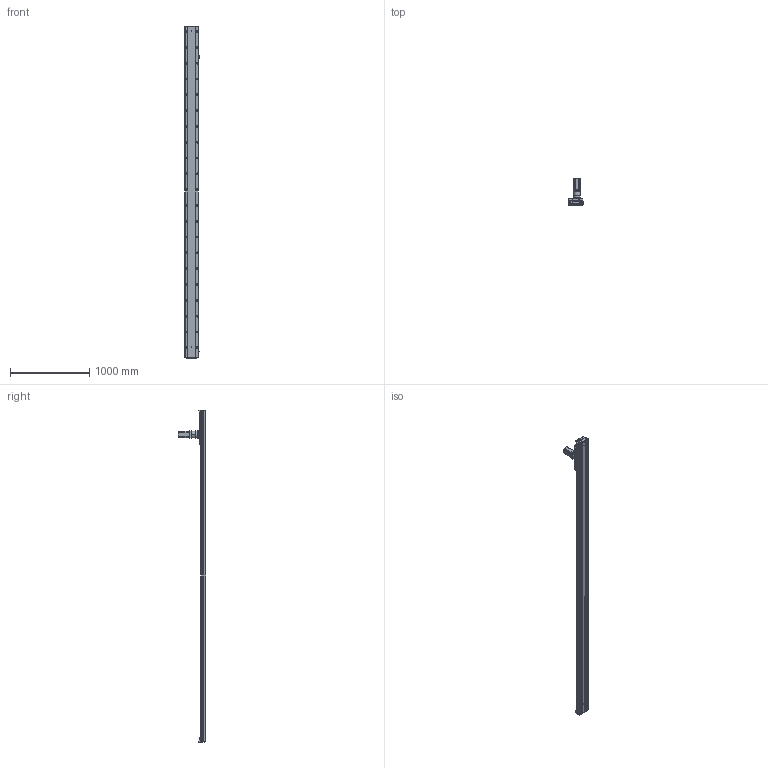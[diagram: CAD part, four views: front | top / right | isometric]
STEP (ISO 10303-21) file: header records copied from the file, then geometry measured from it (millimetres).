
FILE_DESCRIPTION (( 'STEP AP203' ), '1' );
FILE_NAME ('RY170-C-1000-UK.SLDASM_3700.step', '2021-03-03T00:49:17', ( '盈信电脑' ), ( '东莞市道滘镇水果街19号' ), 'SwSTEP 2.0', 'SolidWorks 2012', '' );
FILE_SCHEMA (( 'CONFIG_CONTROL_DESIGN' ));
Length unit declared in the file: millimetre
Products named in the file (13): RY170-C-1000-UK.SLDASM_3700; RY170-喘沭賑輸; RY170-喘沭滅袉蝶輸; 左旋斜齿齿轮_M2_22齿_内孔20; TF080等撰; RY170-喘謫萇儂覃誹啣; 覜茼ん672; 怢湛750W萇儂ㄗ80遺ㄘ; RY170外置感应片(200共用）; 絳寢賑輸EGH20CA; RY170-1000-喘沭耀郪絳寢EGH20CA_3700; RY170綴裔啣ㄗ蜊秶ㄘ; RY170-1000齿条模组型材底座_3700
Assembly tree (22 placements, depth 2):
  RY170-C-1000-UK.SLDASM_3700
    RY170-1000齿条模组型材底座_3700
    絳寢賑輸EGH20CA  x6
    RY170-1000-喘沭耀郪絳寢EGH20CA_3700  x2
    RY170綴裔啣ㄗ蜊秶ㄘ  x2
    覜茼ん672  x3
    RY170外置感应片(200共用）
    RY170-喘謫萇儂覃誹啣
    怢湛750W萇儂ㄗ80遺ㄘ
    RY170-喘沭滅袉蝶輸  x2
    TF080等撰
    左旋斜齿齿轮_M2_22齿_内孔20
    RY170-喘沭賑輸
Bounding box: 188.7 x 343.5 x 4200 mm (x, y, z)
Volume: 20302269.5 mm3; surface area: 5316129.4 mm2
Topology: 24 solids, 24 shells, 5257 faces, 15044 edges, 9558 vertices
Faces by surface type: plane 2395, cylinder 2340, cone 468, bspline 50, torus 4
Entity records: 124412 total; most frequent: CARTESIAN_POINT 30978, ORIENTED_EDGE 19750, DIRECTION 18884, EDGE_CURVE 9875, AXIS2_PLACEMENT_3D 7087, VERTEX_POINT 6416, LINE 4710, VECTOR 4710
